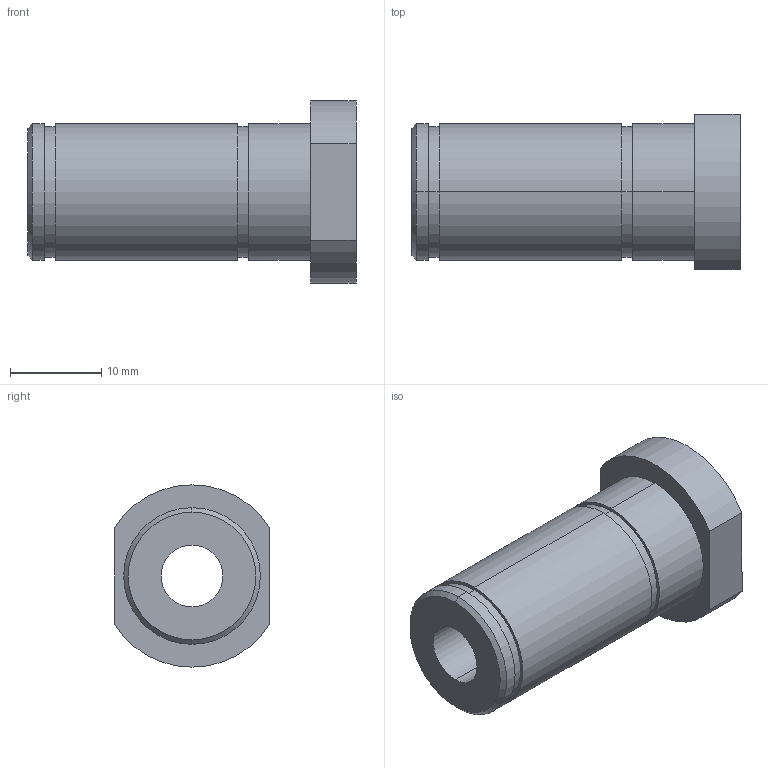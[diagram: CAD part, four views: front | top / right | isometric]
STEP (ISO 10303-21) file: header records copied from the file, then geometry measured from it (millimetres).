
FILE_DESCRIPTION (( 'STEP AP203' ), '1' );
FILE_NAME ('084.821.102.STEP', '2018-03-09T15:51:18', ( '' ), ( '' ), 'SwSTEP 2.0', 'SolidWorks 2016', '' );
FILE_SCHEMA (( 'CONFIG_CONTROL_DESIGN' ));
Length unit declared in the file: millimetre
Products named in the file (1): 084.821.102
Bounding box: 36 x 17 x 20 mm (x, y, z)
Volume: 5590.1 mm3; surface area: 3096.4 mm2
Topology: 1 solids, 1 shells, 26 faces, 55 edges, 36 vertices
Faces by surface type: cylinder 15, plane 9, cone 2
Entity records: 796 total; most frequent: DIRECTION 141, CARTESIAN_POINT 118, ORIENTED_EDGE 110, AXIS2_PLACEMENT_3D 59, EDGE_CURVE 55, VERTEX_POINT 36, EDGE_LOOP 33, CIRCLE 32
